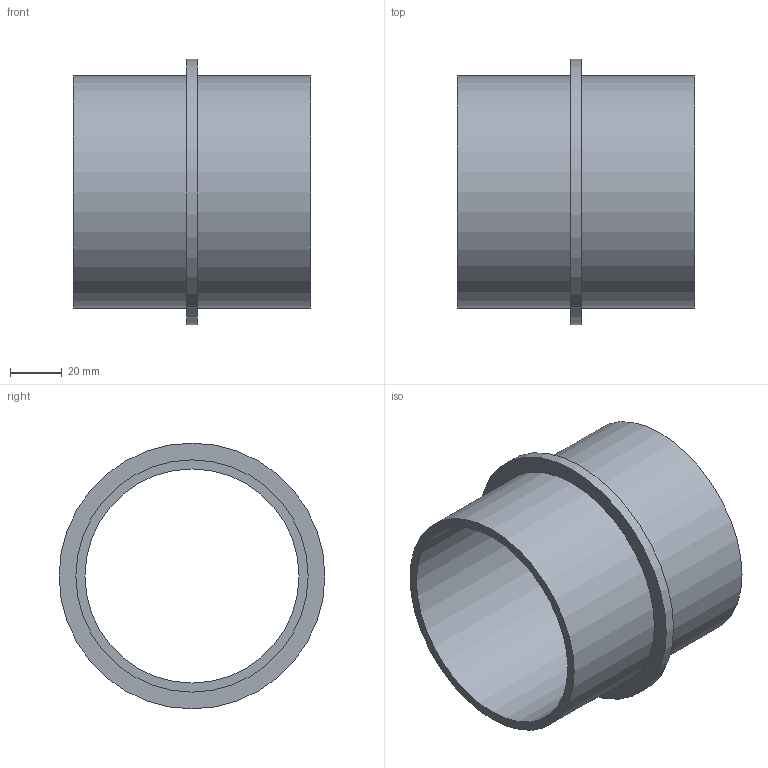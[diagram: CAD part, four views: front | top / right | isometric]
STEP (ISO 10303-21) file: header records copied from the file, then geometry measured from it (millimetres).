
FILE_DESCRIPTION(/* description */ (''),/* implementation_level */ '2;1');
FILE_NAME(/* name */ 'Z:\Geberit\Export\NewStep\Bundbüchse_Einzelteil\stp\366772.stp',/* time_stamp */ '2014-04-03T12:06:53+02:00',/* author */ ('nelson'),/* organization */ (''),/* preprocessor_version */ 'ST-DEVELOPER v15.2',/* originating_system */ 'Autodesk Inventor 2014',/* authorisation */ '');
FILE_SCHEMA (('AUTOMOTIVE_DESIGN { 1 0 10303 214 3 1 1 }'));
Length unit declared in the file: millimetre
Products named in the file (1): 366772
Bounding box: 92 x 103 x 103 mm (x, y, z)
Volume: 95385 mm3; surface area: 56008.3 mm2
Topology: 1 solids, 1 shells, 8 faces, 12 edges, 8 vertices
Faces by surface type: cylinder 4, plane 4
Full cylindrical faces by diameter (mm): 83 x1, 90 x2, 103 x1
Entity records: 190 total; most frequent: DIRECTION 34, CARTESIAN_POINT 25, AXIS2_PLACEMENT_3D 17, EDGE_LOOP 16, ORIENTED_EDGE 16, FACE_BOUND 10, CIRCLE 8, VERTEX_POINT 8
